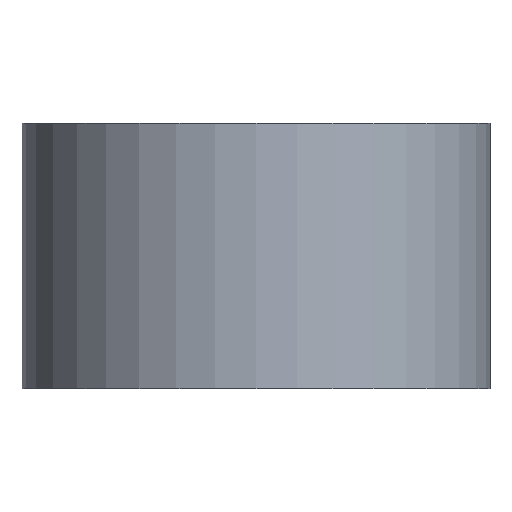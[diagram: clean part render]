
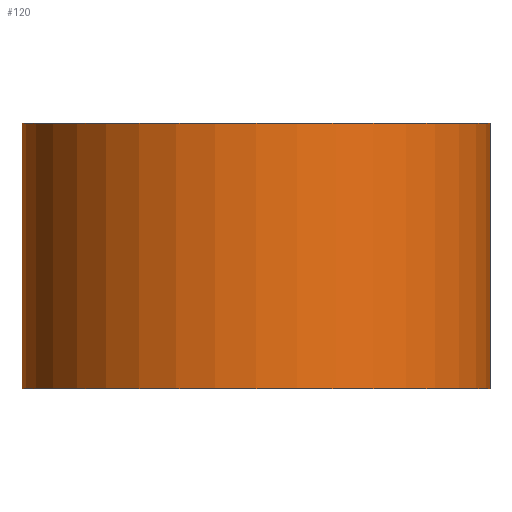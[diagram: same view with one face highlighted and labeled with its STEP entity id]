
A CAD part, front view. The second image highlights one B-rep face of the part: STEP entity #120.
In plain terms, the highlighted cylindrical face has radius 112 mm (diameter 224 mm), a partial arc.
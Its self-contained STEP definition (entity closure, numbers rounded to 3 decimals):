
#64=CARTESIAN_POINT('Axis2P3D Location',(0.,0.,63.5)) ;
#69=CARTESIAN_POINT('Line Origine',(112.,0.,63.5)) ;
#73=CARTESIAN_POINT('Vertex',(112.,0.,0.)) ;
#75=CARTESIAN_POINT('Vertex',(112.,0.,127.)) ;
#82=CARTESIAN_POINT('Vertex',(-112.,0.,0.)) ;
#85=CARTESIAN_POINT('Line Origine',(-112.,0.,63.5)) ;
#89=CARTESIAN_POINT('Vertex',(-112.,0.,127.)) ;
#104=CARTESIAN_POINT('Axis2P3D Location',(0.,0.,0.)) ;
#109=CARTESIAN_POINT('Axis2P3D Location',(0.,0.,127.)) ;
#65=DIRECTION('Axis2P3D Direction',(0.,0.,1.)) ;
#66=DIRECTION('Axis2P3D XDirection',(1.,0.,0.)) ;
#70=DIRECTION('Vector Direction',(0.,0.,1.)) ;
#86=DIRECTION('Vector Direction',(0.,0.,1.)) ;
#105=DIRECTION('Axis2P3D Direction',(0.,0.,1.)) ;
#110=DIRECTION('Axis2P3D Direction',(0.,0.,1.)) ;
#67=AXIS2_PLACEMENT_3D('Cylinder Axis2P3D',#64,#65,#66) ;
#106=AXIS2_PLACEMENT_3D('Circle Axis2P3D',#104,#105,$) ;
#111=AXIS2_PLACEMENT_3D('Circle Axis2P3D',#109,#110,$) ;
#115=ORIENTED_EDGE('',*,*,#91,.F.) ;
#116=ORIENTED_EDGE('',*,*,#108,.T.) ;
#117=ORIENTED_EDGE('',*,*,#77,.T.) ;
#118=ORIENTED_EDGE('',*,*,#113,.F.) ;
#71=VECTOR('Line Direction',#70,1.) ;
#87=VECTOR('Line Direction',#86,1.) ;
#120=ADVANCED_FACE('PartBody',(#119),#68,.T.) ;
#107=CIRCLE('generated circle',#106,112.) ;
#112=CIRCLE('generated circle',#111,112.) ;
#68=CYLINDRICAL_SURFACE('generated cylinder',#67,112.) ;
#77=EDGE_CURVE('',#74,#76,#72,.T.) ;
#91=EDGE_CURVE('',#83,#90,#88,.T.) ;
#108=EDGE_CURVE('',#83,#74,#107,.T.) ;
#113=EDGE_CURVE('',#90,#76,#112,.T.) ;
#114=EDGE_LOOP('',(#115,#116,#117,#118)) ;
#119=FACE_OUTER_BOUND('',#114,.T.) ;
#72=LINE('Line',#69,#71) ;
#88=LINE('Line',#85,#87) ;
#74=VERTEX_POINT('',#73) ;
#76=VERTEX_POINT('',#75) ;
#83=VERTEX_POINT('',#82) ;
#90=VERTEX_POINT('',#89) ;
